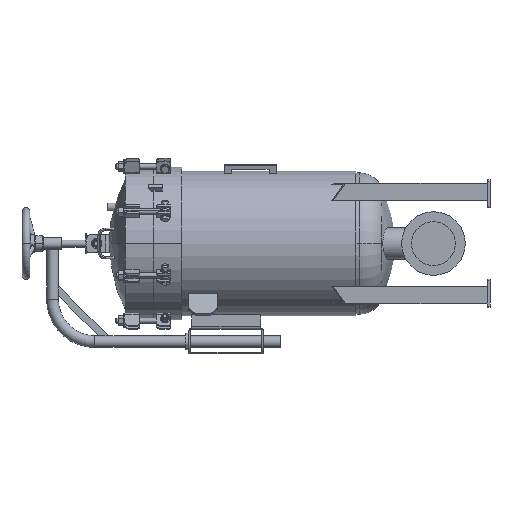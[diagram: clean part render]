
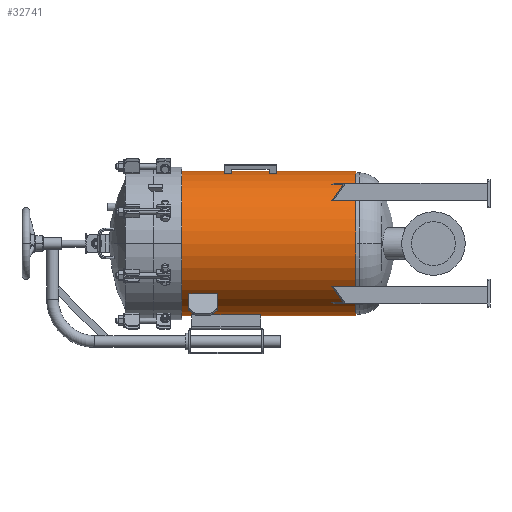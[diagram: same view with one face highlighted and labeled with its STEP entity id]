
A CAD part, left-side view. The second image highlights one B-rep face of the part: STEP entity #32741.
In plain terms, the highlighted cylindrical face has radius 260.35 mm (diameter 520.7 mm), a partial arc.
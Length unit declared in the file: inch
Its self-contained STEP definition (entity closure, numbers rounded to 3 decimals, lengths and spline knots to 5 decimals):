
#1239 = DIRECTION ( 'NONE',  ( 0., -1., 0. ) ) ;
#3936 = CARTESIAN_POINT ( 'NONE',  ( 0., -28.59375, 0. ) ) ;
#5086 = CARTESIAN_POINT ( 'NONE',  ( 0., -28.59375, 10.25 ) ) ;
#5210 = LINE ( 'NONE', #35962, #33037 ) ;
#6972 = VERTEX_POINT ( 'NONE', #51385 ) ;
#8623 = DIRECTION ( 'NONE',  ( 1., 0., 0. ) ) ;
#11033 = ORIENTED_EDGE ( 'NONE', *, *, #25679, .F. ) ;
#12977 = CARTESIAN_POINT ( 'NONE',  ( 0., -28.59375, -10.25 ) ) ;
#13698 = FACE_OUTER_BOUND ( 'NONE', #26459, .T. ) ;
#13981 = DIRECTION ( 'NONE',  ( 0., -1., 0. ) ) ;
#16659 = DIRECTION ( 'NONE',  ( 0., 1., 0. ) ) ;
#17813 = VERTEX_POINT ( 'NONE', #33411 ) ;
#20208 = ORIENTED_EDGE ( 'NONE', *, *, #45670, .T. ) ;
#21064 = DIRECTION ( 'NONE',  ( 0., 1., 0. ) ) ;
#22005 = VECTOR ( 'NONE', #41369, 39.37008 ) ;
#23923 = CARTESIAN_POINT ( 'NONE',  ( 0., -2.09375, 10.25 ) ) ;
#25679 = EDGE_CURVE ( 'NONE', #17813, #6972, #26520, .T. ) ;
#26459 = EDGE_LOOP ( 'NONE', ( #38434, #11033, #20208, #33626 ) ) ;
#26520 = CIRCLE ( 'NONE', #40015, 10.25 ) ;
#26663 = AXIS2_PLACEMENT_3D ( 'NONE', #3936, #16659, #33017 ) ;
#28628 = EDGE_CURVE ( 'NONE', #29822, #40629, #39244, .T. ) ;
#29822 = VERTEX_POINT ( 'NONE', #12977 ) ;
#30912 = CYLINDRICAL_SURFACE ( 'NONE', #55742, 10.25 ) ;
#32741 = ADVANCED_FACE ( 'NONE', ( #13698 ), #30912, .T. ) ;
#33017 = DIRECTION ( 'NONE',  ( 1., 0., 0. ) ) ;
#33037 = VECTOR ( 'NONE', #1239, 39.37008 ) ;
#33411 = CARTESIAN_POINT ( 'NONE',  ( 0., -2.09375, -10.25 ) ) ;
#33626 = ORIENTED_EDGE ( 'NONE', *, *, #28628, .T. ) ;
#34302 = CARTESIAN_POINT ( 'NONE',  ( 0., -2.09375, 0. ) ) ;
#35962 = CARTESIAN_POINT ( 'NONE',  ( 0., -2.09375, -10.25 ) ) ;
#38434 = ORIENTED_EDGE ( 'NONE', *, *, #55671, .F. ) ;
#39244 = CIRCLE ( 'NONE', #26663, 10.25 ) ;
#40015 = AXIS2_PLACEMENT_3D ( 'NONE', #34302, #21064, #8623 ) ;
#40629 = VERTEX_POINT ( 'NONE', #5086 ) ;
#41369 = DIRECTION ( 'NONE',  ( 0., -1., 0. ) ) ;
#43903 = DIRECTION ( 'NONE',  ( 0., 0., -1. ) ) ;
#45670 = EDGE_CURVE ( 'NONE', #17813, #29822, #5210, .T. ) ;
#48706 = CARTESIAN_POINT ( 'NONE',  ( 0., -2.09375, 0. ) ) ;
#51385 = CARTESIAN_POINT ( 'NONE',  ( 0., -2.09375, 10.25 ) ) ;
#54370 = LINE ( 'NONE', #23923, #22005 ) ;
#55671 = EDGE_CURVE ( 'NONE', #6972, #40629, #54370, .T. ) ;
#55742 = AXIS2_PLACEMENT_3D ( 'NONE', #48706, #13981, #43903 ) ;
